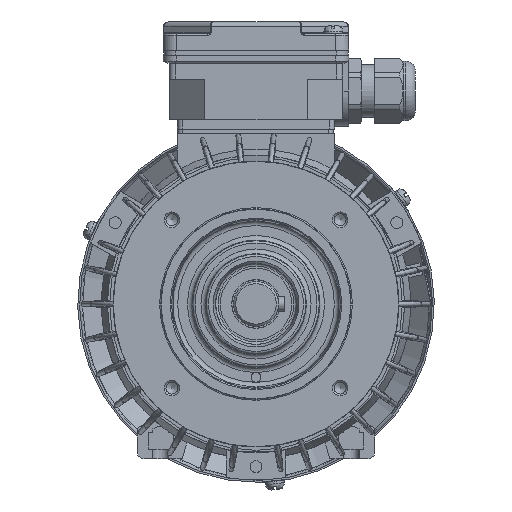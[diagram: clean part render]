
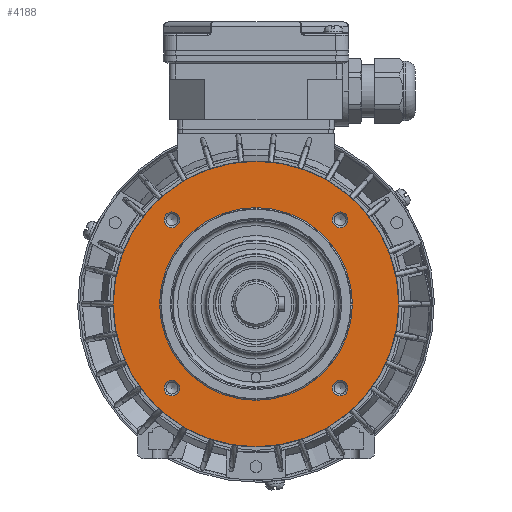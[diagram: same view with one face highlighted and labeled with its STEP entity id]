
A CAD part, left-side view. The second image highlights one B-rep face of the part: STEP entity #4188.
In plain terms, the highlighted planar face has unit normal (-1, 0, 0) as drawn and (0, -1, 0) by its records, which use the part's own axes.
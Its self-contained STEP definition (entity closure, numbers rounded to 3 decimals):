
#4188 = ADVANCED_FACE( '', ( #10103, #10104, #10105, #10106, #10107, #10108 ), #10109, .T. );
#10103 = FACE_BOUND( '', #22751, .T. );
#10104 = FACE_BOUND( '', #22752, .T. );
#10105 = FACE_BOUND( '', #22753, .T. );
#10106 = FACE_BOUND( '', #22754, .T. );
#10107 = FACE_BOUND( '', #22755, .T. );
#10108 = FACE_OUTER_BOUND( '', #22756, .T. );
#10109 = PLANE( '', #22757 );
#22751 = EDGE_LOOP( '', ( #51431 ) );
#22752 = EDGE_LOOP( '', ( #51432 ) );
#22753 = EDGE_LOOP( '', ( #51433 ) );
#22754 = EDGE_LOOP( '', ( #51434 ) );
#22755 = EDGE_LOOP( '', ( #51435 ) );
#22756 = EDGE_LOOP( '', ( #51436 ) );
#22757 = AXIS2_PLACEMENT_3D( '', #51437, #51438, #51439 );
#51431 = ORIENTED_EDGE( '', *, *, #72570, .T. );
#51432 = ORIENTED_EDGE( '', *, *, #72571, .T. );
#51433 = ORIENTED_EDGE( '', *, *, #72572, .T. );
#51434 = ORIENTED_EDGE( '', *, *, #70506, .T. );
#51435 = ORIENTED_EDGE( '', *, *, #72573, .T. );
#51436 = ORIENTED_EDGE( '', *, *, #72574, .T. );
#51437 = CARTESIAN_POINT( '', ( 0., 3., 40. ) );
#51438 = DIRECTION( '', ( 0., -1., 0. ) );
#51439 = DIRECTION( '', ( 0., 0., -1. ) );
#70506 = EDGE_CURVE( '', #80966, #80966, #80967, .F. );
#72570 = EDGE_CURVE( '', #84499, #84499, #84500, .F. );
#72571 = EDGE_CURVE( '', #84501, #84501, #84502, .F. );
#72572 = EDGE_CURVE( '', #84503, #84503, #84504, .F. );
#72573 = EDGE_CURVE( '', #84505, #84505, #84506, .F. );
#72574 = EDGE_CURVE( '', #84507, #84507, #84508, .T. );
#80966 = VERTEX_POINT( '', #103167 );
#80967 = CIRCLE( '', #103168, 3.3 );
#84499 = VERTEX_POINT( '', #110590 );
#84500 = CIRCLE( '', #110591, 3.3 );
#84501 = VERTEX_POINT( '', #110592 );
#84502 = CIRCLE( '', #110593, 3.3 );
#84503 = VERTEX_POINT( '', #110594 );
#84504 = CIRCLE( '', #110595, 3.3 );
#84505 = VERTEX_POINT( '', #110596 );
#84506 = CIRCLE( '', #110597, 40.5 );
#84507 = VERTEX_POINT( '', #110598 );
#84508 = CIRCLE( '', #110599, 60. );
#103167 = CARTESIAN_POINT( '', ( -35.355, 3., 32.055 ) );
#103168 = AXIS2_PLACEMENT_3D( '', #130202, #130203, #130204 );
#110590 = CARTESIAN_POINT( '', ( -35.355, 3., -38.655 ) );
#110591 = AXIS2_PLACEMENT_3D( '', #133074, #133075, #133076 );
#110592 = CARTESIAN_POINT( '', ( 35.355, 3., -38.655 ) );
#110593 = AXIS2_PLACEMENT_3D( '', #133077, #133078, #133079 );
#110594 = CARTESIAN_POINT( '', ( 35.355, 3., 32.055 ) );
#110595 = AXIS2_PLACEMENT_3D( '', #133080, #133081, #133082 );
#110596 = CARTESIAN_POINT( '', ( 0., 3., -40.5 ) );
#110597 = AXIS2_PLACEMENT_3D( '', #133083, #133084, #133085 );
#110598 = CARTESIAN_POINT( '', ( 0., 3., -60. ) );
#110599 = AXIS2_PLACEMENT_3D( '', #133086, #133087, #133088 );
#130202 = CARTESIAN_POINT( '', ( -35.355, 3., 35.355 ) );
#130203 = DIRECTION( '', ( 0., -1., 0. ) );
#130204 = DIRECTION( '', ( 0., 0., -1. ) );
#133074 = CARTESIAN_POINT( '', ( -35.355, 3., -35.355 ) );
#133075 = DIRECTION( '', ( 0., -1., 0. ) );
#133076 = DIRECTION( '', ( 0., 0., -1. ) );
#133077 = CARTESIAN_POINT( '', ( 35.355, 3., -35.355 ) );
#133078 = DIRECTION( '', ( 0., -1., 0. ) );
#133079 = DIRECTION( '', ( 0., 0., -1. ) );
#133080 = CARTESIAN_POINT( '', ( 35.355, 3., 35.355 ) );
#133081 = DIRECTION( '', ( 0., -1., 0. ) );
#133082 = DIRECTION( '', ( 0., 0., -1. ) );
#133083 = CARTESIAN_POINT( '', ( 0., 3., 0. ) );
#133084 = DIRECTION( '', ( 0., -1., 0. ) );
#133085 = DIRECTION( '', ( 0., 0., -1. ) );
#133086 = CARTESIAN_POINT( '', ( 0., 3., 0. ) );
#133087 = DIRECTION( '', ( 0., -1., 0. ) );
#133088 = DIRECTION( '', ( 0., 0., -1. ) );
